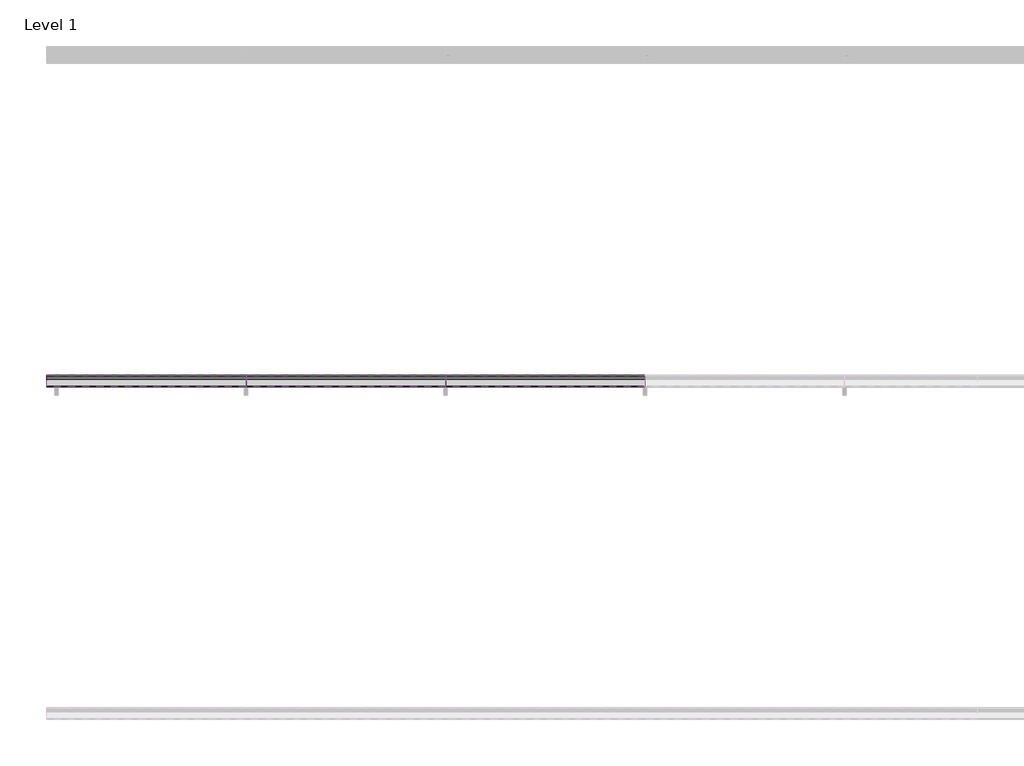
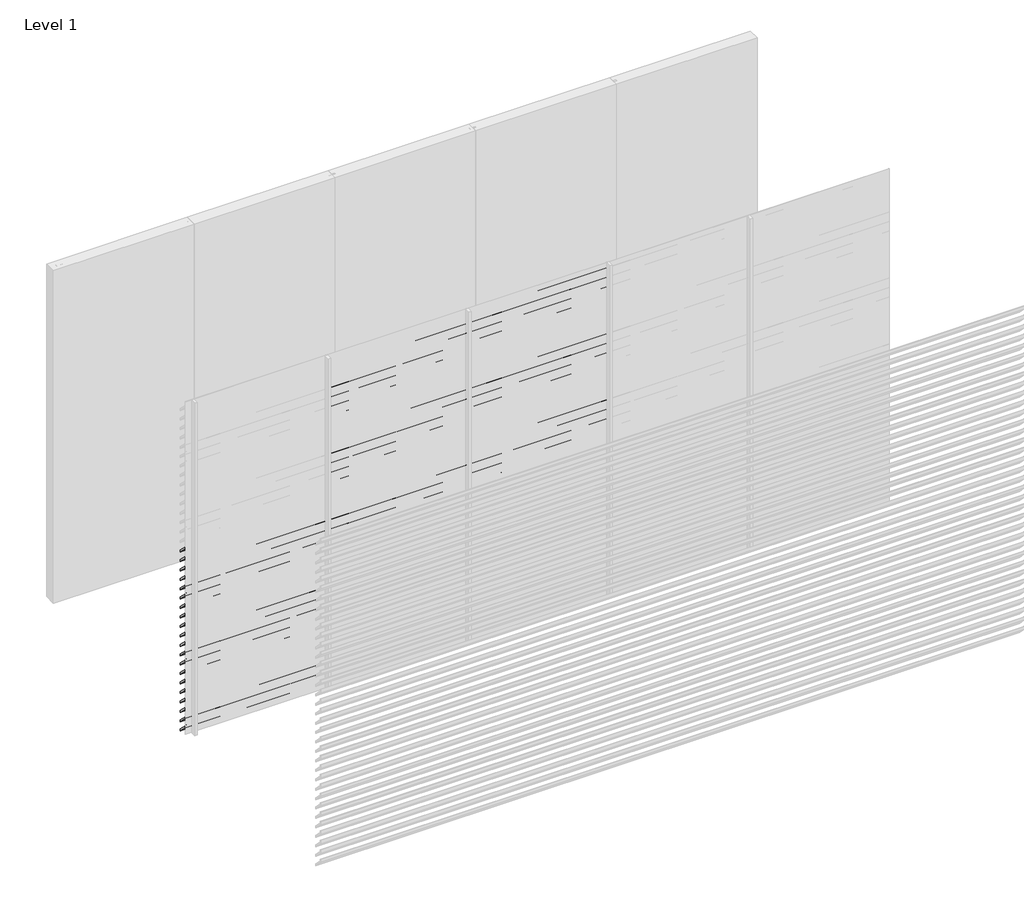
# One storey, part 7 of 10: 90 proxies.
"""IFC4 building model written with IfcOpenShell, lengths in millimetres."""

from ifc_helpers import new_model, si_unit, frame, origin, place, context, project, spatial, polyline, outline, extrude, element, save

model = new_model("IFC4")

# Units and contexts
model_context = context("Model", 3, world=origin())
ifc_project = project(units=[si_unit("LENGTHUNIT", "METRE", prefix="MILLI")], contexts=[model_context])

# Site, building, storey
site = spatial("IfcSite", under=ifc_project)
building = spatial("IfcBuilding", under=site)
storey = spatial("IfcBuildingStorey", under=building, Name="Level 1", Elevation=0.0)

# Proxies
placement = place(None, origin())
element("IfcBuildingElementProxy", 1, Name="Wall Sweeps", at=placement, inside=storey, context=model_context, shape_type="SweptSolid", body=[
    extrude(outline(polyline([(-5995.0, 1700.0), (-5995.0, 1687.0), (-5927.0, 1619.0), (-5927.0, 1601.0), (-5997.0, 1671.0), (-5997.0, 1700.0), (-5995.0, 1700.0)])), frame((0.0, 0.0, 0.0), z_axis=(1.0, 0.0, 0.0), x_axis=(0.0, 1.0, 0.0)), (0.0, 0.0, 1.0), 1200.0),
])
element("IfcBuildingElementProxy", 2, Name="Wall Sweeps", at=placement, inside=storey, context=model_context, shape_type="SweptSolid", body=[
    extrude(outline(polyline([(-5995.0, 1615.0), (-5995.0, 1602.0), (-5927.0, 1534.0), (-5927.0, 1516.0), (-5997.0, 1586.0), (-5997.0, 1615.0), (-5995.0, 1615.0)])), frame((0.0, 0.0, 0.0), z_axis=(1.0, 0.0, 0.0), x_axis=(0.0, 1.0, 0.0)), (0.0, 0.0, 1.0), 1200.0),
])
element("IfcBuildingElementProxy", 3, Name="Wall Sweeps", at=placement, inside=storey, context=model_context, shape_type="SweptSolid", body=[
    extrude(outline(polyline([(-5995.0, 1530.0), (-5995.0, 1517.0), (-5927.0, 1449.0), (-5927.0, 1431.0), (-5997.0, 1501.0), (-5997.0, 1530.0), (-5995.0, 1530.0)])), frame((0.0, 0.0, 0.0), z_axis=(1.0, 0.0, 0.0), x_axis=(0.0, 1.0, 0.0)), (0.0, 0.0, 1.0), 1200.0),
])
element("IfcBuildingElementProxy", 4, Name="Wall Sweeps", at=placement, inside=storey, context=model_context, shape_type="SweptSolid", body=[
    extrude(outline(polyline([(-5995.0, 1445.0), (-5995.0, 1432.0), (-5927.0, 1364.0), (-5927.0, 1346.0), (-5997.0, 1416.0), (-5997.0, 1445.0), (-5995.0, 1445.0)])), frame((0.0, 0.0, 0.0), z_axis=(1.0, 0.0, 0.0), x_axis=(0.0, 1.0, 0.0)), (0.0, 0.0, 1.0), 1200.0),
])
element("IfcBuildingElementProxy", 5, Name="Wall Sweeps", at=placement, inside=storey, context=model_context, shape_type="SweptSolid", body=[
    extrude(outline(polyline([(-5995.0, 1360.0), (-5995.0, 1347.0), (-5927.0, 1279.0), (-5927.0, 1261.0), (-5997.0, 1331.0), (-5997.0, 1360.0), (-5995.0, 1360.0)])), frame((0.0, 0.0, 0.0), z_axis=(1.0, 0.0, 0.0), x_axis=(0.0, 1.0, 0.0)), (0.0, 0.0, 1.0), 1200.0),
])
element("IfcBuildingElementProxy", 6, Name="Wall Sweeps", at=placement, inside=storey, context=model_context, shape_type="SweptSolid", body=[
    extrude(outline(polyline([(-5995.0, 1275.0), (-5995.0, 1262.0), (-5927.0, 1194.0), (-5927.0, 1176.0), (-5997.0, 1246.0), (-5997.0, 1275.0), (-5995.0, 1275.0)])), frame((0.0, 0.0, 0.0), z_axis=(1.0, 0.0, 0.0), x_axis=(0.0, 1.0, 0.0)), (0.0, 0.0, 1.0), 1200.0),
])
element("IfcBuildingElementProxy", 7, Name="Wall Sweeps", at=placement, inside=storey, context=model_context, shape_type="SweptSolid", body=[
    extrude(outline(polyline([(-5995.0, 1190.0), (-5995.0, 1177.0), (-5927.0, 1109.0), (-5927.0, 1091.0), (-5997.0, 1161.0), (-5997.0, 1190.0), (-5995.0, 1190.0)])), frame((0.0, 0.0, 0.0), z_axis=(1.0, 0.0, 0.0), x_axis=(0.0, 1.0, 0.0)), (0.0, 0.0, 1.0), 1200.0),
])
element("IfcBuildingElementProxy", 8, Name="Wall Sweeps", at=placement, inside=storey, context=model_context, shape_type="SweptSolid", body=[
    extrude(outline(polyline([(-5995.0, 1105.0), (-5995.0, 1092.0), (-5927.0, 1024.0), (-5927.0, 1006.0), (-5997.0, 1076.0), (-5997.0, 1105.0), (-5995.0, 1105.0)])), frame((0.0, 0.0, 0.0), z_axis=(1.0, 0.0, 0.0), x_axis=(0.0, 1.0, 0.0)), (0.0, 0.0, 1.0), 1200.0),
])
element("IfcBuildingElementProxy", 9, Name="Wall Sweeps", at=placement, inside=storey, context=model_context, shape_type="SweptSolid", body=[
    extrude(outline(polyline([(-5995.0, 1020.0), (-5995.0, 1007.0), (-5927.0, 939.0), (-5927.0, 921.0), (-5997.0, 991.0), (-5997.0, 1020.0), (-5995.0, 1020.0)])), frame((0.0, 0.0, 0.0), z_axis=(1.0, 0.0, 0.0), x_axis=(0.0, 1.0, 0.0)), (0.0, 0.0, 1.0), 1200.0),
])
element("IfcBuildingElementProxy", 10, Name="Wall Sweeps", at=placement, inside=storey, context=model_context, shape_type="SweptSolid", body=[
    extrude(outline(polyline([(-5995.0, 935.0), (-5995.0, 922.0), (-5927.0, 854.0), (-5927.0, 836.0), (-5997.0, 906.0), (-5997.0, 935.0), (-5995.0, 935.0)])), frame((0.0, 0.0, 0.0), z_axis=(1.0, 0.0, 0.0), x_axis=(0.0, 1.0, 0.0)), (0.0, 0.0, 1.0), 1200.0),
])
element("IfcBuildingElementProxy", 11, Name="Wall Sweeps", at=placement, inside=storey, context=model_context, shape_type="SweptSolid", body=[
    extrude(outline(polyline([(-5995.0, 850.0), (-5995.0, 837.0), (-5927.0, 769.0), (-5927.0, 751.0), (-5997.0, 821.0), (-5997.0, 850.0), (-5995.0, 850.0)])), frame((0.0, 0.0, 0.0), z_axis=(1.0, 0.0, 0.0), x_axis=(0.0, 1.0, 0.0)), (0.0, 0.0, 1.0), 1200.0),
])
element("IfcBuildingElementProxy", 12, Name="Wall Sweeps", at=placement, inside=storey, context=model_context, shape_type="SweptSolid", body=[
    extrude(outline(polyline([(-5995.0, 765.0), (-5995.0, 752.0), (-5927.0, 684.0), (-5927.0, 666.0), (-5997.0, 736.0), (-5997.0, 765.0), (-5995.0, 765.0)])), frame((0.0, 0.0, 0.0), z_axis=(1.0, 0.0, 0.0), x_axis=(0.0, 1.0, 0.0)), (0.0, 0.0, 1.0), 1200.0),
])
element("IfcBuildingElementProxy", 13, Name="Wall Sweeps", at=placement, inside=storey, context=model_context, shape_type="SweptSolid", body=[
    extrude(outline(polyline([(-5995.0, 680.0), (-5995.0, 667.0), (-5927.0, 599.0), (-5927.0, 581.0), (-5997.0, 651.0), (-5997.0, 680.0), (-5995.0, 680.0)])), frame((0.0, 0.0, 0.0), z_axis=(1.0, 0.0, 0.0), x_axis=(0.0, 1.0, 0.0)), (0.0, 0.0, 1.0), 1200.0),
])
element("IfcBuildingElementProxy", 14, Name="Wall Sweeps", at=placement, inside=storey, context=model_context, shape_type="SweptSolid", body=[
    extrude(outline(polyline([(-5995.0, 595.0), (-5995.0, 582.0), (-5927.0, 514.0), (-5927.0, 496.0), (-5997.0, 566.0), (-5997.0, 595.0), (-5995.0, 595.0)])), frame((0.0, 0.0, 0.0), z_axis=(1.0, 0.0, 0.0), x_axis=(0.0, 1.0, 0.0)), (0.0, 0.0, 1.0), 1200.0),
])
element("IfcBuildingElementProxy", 15, Name="Wall Sweeps", at=placement, inside=storey, context=model_context, shape_type="SweptSolid", body=[
    extrude(outline(polyline([(-5995.0, 510.0), (-5995.0, 497.0), (-5927.0, 429.0), (-5927.0, 411.0), (-5997.0, 481.0), (-5997.0, 510.0), (-5995.0, 510.0)])), frame((0.0, 0.0, 0.0), z_axis=(1.0, 0.0, 0.0), x_axis=(0.0, 1.0, 0.0)), (0.0, 0.0, 1.0), 1200.0),
])
element("IfcBuildingElementProxy", 16, Name="Wall Sweeps", at=placement, inside=storey, context=model_context, shape_type="SweptSolid", body=[
    extrude(outline(polyline([(-5995.0, 425.0), (-5995.0, 412.0), (-5927.0, 344.0), (-5927.0, 326.0), (-5997.0, 396.0), (-5997.0, 425.0), (-5995.0, 425.0)])), frame((0.0, 0.0, 0.0), z_axis=(1.0, 0.0, 0.0), x_axis=(0.0, 1.0, 0.0)), (0.0, 0.0, 1.0), 1200.0),
])
element("IfcBuildingElementProxy", 17, Name="Wall Sweeps", at=placement, inside=storey, context=model_context, shape_type="SweptSolid", body=[
    extrude(outline(polyline([(-5995.0, 340.0), (-5995.0, 327.0), (-5927.0, 259.0), (-5927.0, 241.0), (-5997.0, 311.0), (-5997.0, 340.0), (-5995.0, 340.0)])), frame((0.0, 0.0, 0.0), z_axis=(1.0, 0.0, 0.0), x_axis=(0.0, 1.0, 0.0)), (0.0, 0.0, 1.0), 1200.0),
])
element("IfcBuildingElementProxy", 18, Name="Wall Sweeps", at=placement, inside=storey, context=model_context, shape_type="SweptSolid", body=[
    extrude(outline(polyline([(-5995.0, 255.0), (-5995.0, 242.0), (-5927.0, 174.0), (-5927.0, 156.0), (-5997.0, 226.0), (-5997.0, 255.0), (-5995.0, 255.0)])), frame((0.0, 0.0, 0.0), z_axis=(1.0, 0.0, 0.0), x_axis=(0.0, 1.0, 0.0)), (0.0, 0.0, 1.0), 1200.0),
])
element("IfcBuildingElementProxy", 19, Name="Wall Sweeps", at=placement, inside=storey, context=model_context, shape_type="SweptSolid", body=[
    extrude(outline(polyline([(-5995.0, 170.0), (-5995.0, 157.0), (-5927.0, 89.0), (-5927.0, 71.0), (-5997.0, 141.0), (-5997.0, 170.0), (-5995.0, 170.0)])), frame((0.0, 0.0, 0.0), z_axis=(1.0, 0.0, 0.0), x_axis=(0.0, 1.0, 0.0)), (0.0, 0.0, 1.0), 1200.0),
])
element("IfcBuildingElementProxy", 20, Name="Wall Sweeps", at=placement, inside=storey, context=model_context, shape_type="SweptSolid", body=[
    extrude(outline(polyline([(-5995.0, 85.0), (-5995.0, 72.0), (-5927.0, 4.0), (-5927.0, -14.0), (-5997.0, 56.0), (-5997.0, 85.0), (-5995.0, 85.0)])), frame((0.0, 0.0, 0.0), z_axis=(1.0, 0.0, 0.0), x_axis=(0.0, 1.0, 0.0)), (0.0, 0.0, 1.0), 1200.0),
])
element("IfcBuildingElementProxy", 21, Name="Wall Sweeps", at=placement, inside=storey, context=model_context, shape_type="SweptSolid", body=[
    extrude(outline(polyline([(-5995.0, 2975.0), (-5995.0, 2962.0), (-5927.0, 2894.0), (-5927.0, 2876.0), (-5997.0, 2946.0), (-5997.0, 2975.0), (-5995.0, 2975.0)])), frame((1200.0, 0.0, 0.0), z_axis=(1.0, 0.0, 0.0), x_axis=(0.0, 1.0, 0.0)), (0.0, 0.0, 1.0), 1200.0),
])
element("IfcBuildingElementProxy", 22, Name="Wall Sweeps", at=placement, inside=storey, context=model_context, shape_type="SweptSolid", body=[
    extrude(outline(polyline([(-5995.0, 2890.0), (-5995.0, 2877.0), (-5927.0, 2809.0), (-5927.0, 2791.0), (-5997.0, 2861.0), (-5997.0, 2890.0), (-5995.0, 2890.0)])), frame((1200.0, 0.0, 0.0), z_axis=(1.0, 0.0, 0.0), x_axis=(0.0, 1.0, 0.0)), (0.0, 0.0, 1.0), 1200.0),
])
element("IfcBuildingElementProxy", 23, Name="Wall Sweeps", at=placement, inside=storey, context=model_context, shape_type="SweptSolid", body=[
    extrude(outline(polyline([(-5995.0, 2805.0), (-5995.0, 2792.0), (-5927.0, 2724.0), (-5927.0, 2706.0), (-5997.0, 2776.0), (-5997.0, 2805.0), (-5995.0, 2805.0)])), frame((1200.0, 0.0, 0.0), z_axis=(1.0, 0.0, 0.0), x_axis=(0.0, 1.0, 0.0)), (0.0, 0.0, 1.0), 1200.0),
])
element("IfcBuildingElementProxy", 24, Name="Wall Sweeps", at=placement, inside=storey, context=model_context, shape_type="SweptSolid", body=[
    extrude(outline(polyline([(-5995.0, 2720.0), (-5995.0, 2707.0), (-5927.0, 2639.0), (-5927.0, 2621.0), (-5997.0, 2691.0), (-5997.0, 2720.0), (-5995.0, 2720.0)])), frame((1200.0, 0.0, 0.0), z_axis=(1.0, 0.0, 0.0), x_axis=(0.0, 1.0, 0.0)), (0.0, 0.0, 1.0), 1200.0),
])
element("IfcBuildingElementProxy", 25, Name="Wall Sweeps", at=placement, inside=storey, context=model_context, shape_type="SweptSolid", body=[
    extrude(outline(polyline([(-5995.0, 2635.0), (-5995.0, 2622.0), (-5927.0, 2554.0), (-5927.0, 2536.0), (-5997.0, 2606.0), (-5997.0, 2635.0), (-5995.0, 2635.0)])), frame((1200.0, 0.0, 0.0), z_axis=(1.0, 0.0, 0.0), x_axis=(0.0, 1.0, 0.0)), (0.0, 0.0, 1.0), 1200.0),
])
element("IfcBuildingElementProxy", 26, Name="Wall Sweeps", at=placement, inside=storey, context=model_context, shape_type="SweptSolid", body=[
    extrude(outline(polyline([(-5995.0, 2550.0), (-5995.0, 2537.0), (-5927.0, 2469.0), (-5927.0, 2451.0), (-5997.0, 2521.0), (-5997.0, 2550.0), (-5995.0, 2550.0)])), frame((1200.0, 0.0, 0.0), z_axis=(1.0, 0.0, 0.0), x_axis=(0.0, 1.0, 0.0)), (0.0, 0.0, 1.0), 1200.0),
])
element("IfcBuildingElementProxy", 27, Name="Wall Sweeps", at=placement, inside=storey, context=model_context, shape_type="SweptSolid", body=[
    extrude(outline(polyline([(-5995.0, 2465.0), (-5995.0, 2452.0), (-5927.0, 2384.0), (-5927.0, 2366.0), (-5997.0, 2436.0), (-5997.0, 2465.0), (-5995.0, 2465.0)])), frame((1200.0, 0.0, 0.0), z_axis=(1.0, 0.0, 0.0), x_axis=(0.0, 1.0, 0.0)), (0.0, 0.0, 1.0), 1200.0),
])
element("IfcBuildingElementProxy", 28, Name="Wall Sweeps", at=placement, inside=storey, context=model_context, shape_type="SweptSolid", body=[
    extrude(outline(polyline([(-5995.0, 2380.0), (-5995.0, 2367.0), (-5927.0, 2299.0), (-5927.0, 2281.0), (-5997.0, 2351.0), (-5997.0, 2380.0), (-5995.0, 2380.0)])), frame((1200.0, 0.0, 0.0), z_axis=(1.0, 0.0, 0.0), x_axis=(0.0, 1.0, 0.0)), (0.0, 0.0, 1.0), 1200.0),
])
element("IfcBuildingElementProxy", 29, Name="Wall Sweeps", at=placement, inside=storey, context=model_context, shape_type="SweptSolid", body=[
    extrude(outline(polyline([(-5995.0, 2295.0), (-5995.0, 2282.0), (-5927.0, 2214.0), (-5927.0, 2196.0), (-5997.0, 2266.0), (-5997.0, 2295.0), (-5995.0, 2295.0)])), frame((1200.0, 0.0, 0.0), z_axis=(1.0, 0.0, 0.0), x_axis=(0.0, 1.0, 0.0)), (0.0, 0.0, 1.0), 1200.0),
])
element("IfcBuildingElementProxy", 30, Name="Wall Sweeps", at=placement, inside=storey, context=model_context, shape_type="SweptSolid", body=[
    extrude(outline(polyline([(-5995.0, 2210.0), (-5995.0, 2197.0), (-5927.0, 2129.0), (-5927.0, 2111.0), (-5997.0, 2181.0), (-5997.0, 2210.0), (-5995.0, 2210.0)])), frame((1200.0, 0.0, 0.0), z_axis=(1.0, 0.0, 0.0), x_axis=(0.0, 1.0, 0.0)), (0.0, 0.0, 1.0), 1200.0),
])
element("IfcBuildingElementProxy", 31, Name="Wall Sweeps", at=placement, inside=storey, context=model_context, shape_type="SweptSolid", body=[
    extrude(outline(polyline([(-5995.0, 2125.0), (-5995.0, 2112.0), (-5927.0, 2044.0), (-5927.0, 2026.0), (-5997.0, 2096.0), (-5997.0, 2125.0), (-5995.0, 2125.0)])), frame((1200.0, 0.0, 0.0), z_axis=(1.0, 0.0, 0.0), x_axis=(0.0, 1.0, 0.0)), (0.0, 0.0, 1.0), 1200.0),
])
element("IfcBuildingElementProxy", 32, Name="Wall Sweeps", at=placement, inside=storey, context=model_context, shape_type="SweptSolid", body=[
    extrude(outline(polyline([(-5995.0, 2040.0), (-5995.0, 2027.0), (-5927.0, 1959.0), (-5927.0, 1941.0), (-5997.0, 2011.0), (-5997.0, 2040.0), (-5995.0, 2040.0)])), frame((1200.0, 0.0, 0.0), z_axis=(1.0, 0.0, 0.0), x_axis=(0.0, 1.0, 0.0)), (0.0, 0.0, 1.0), 1200.0),
])
element("IfcBuildingElementProxy", 33, Name="Wall Sweeps", at=placement, inside=storey, context=model_context, shape_type="SweptSolid", body=[
    extrude(outline(polyline([(-5995.0, 1955.0), (-5995.0, 1942.0), (-5927.0, 1874.0), (-5927.0, 1856.0), (-5997.0, 1926.0), (-5997.0, 1955.0), (-5995.0, 1955.0)])), frame((1200.0, 0.0, 0.0), z_axis=(1.0, 0.0, 0.0), x_axis=(0.0, 1.0, 0.0)), (0.0, 0.0, 1.0), 1200.0),
])
element("IfcBuildingElementProxy", 34, Name="Wall Sweeps", at=placement, inside=storey, context=model_context, shape_type="SweptSolid", body=[
    extrude(outline(polyline([(-5995.0, 1870.0), (-5995.0, 1857.0), (-5927.0, 1789.0), (-5927.0, 1771.0), (-5997.0, 1841.0), (-5997.0, 1870.0), (-5995.0, 1870.0)])), frame((1200.0, 0.0, 0.0), z_axis=(1.0, 0.0, 0.0), x_axis=(0.0, 1.0, 0.0)), (0.0, 0.0, 1.0), 1200.0),
])
element("IfcBuildingElementProxy", 35, Name="Wall Sweeps", at=placement, inside=storey, context=model_context, shape_type="SweptSolid", body=[
    extrude(outline(polyline([(-5995.0, 1785.0), (-5995.0, 1772.0), (-5927.0, 1704.0), (-5927.0, 1686.0), (-5997.0, 1756.0), (-5997.0, 1785.0), (-5995.0, 1785.0)])), frame((1200.0, 0.0, 0.0), z_axis=(1.0, 0.0, 0.0), x_axis=(0.0, 1.0, 0.0)), (0.0, 0.0, 1.0), 1200.0),
])
element("IfcBuildingElementProxy", 36, Name="Wall Sweeps", at=placement, inside=storey, context=model_context, shape_type="SweptSolid", body=[
    extrude(outline(polyline([(-5995.0, 1700.0), (-5995.0, 1687.0), (-5927.0, 1619.0), (-5927.0, 1601.0), (-5997.0, 1671.0), (-5997.0, 1700.0), (-5995.0, 1700.0)])), frame((1200.0, 0.0, 0.0), z_axis=(1.0, 0.0, 0.0), x_axis=(0.0, 1.0, 0.0)), (0.0, 0.0, 1.0), 1200.0),
])
element("IfcBuildingElementProxy", 37, Name="Wall Sweeps", at=placement, inside=storey, context=model_context, shape_type="SweptSolid", body=[
    extrude(outline(polyline([(-5995.0, 1615.0), (-5995.0, 1602.0), (-5927.0, 1534.0), (-5927.0, 1516.0), (-5997.0, 1586.0), (-5997.0, 1615.0), (-5995.0, 1615.0)])), frame((1200.0, 0.0, 0.0), z_axis=(1.0, 0.0, 0.0), x_axis=(0.0, 1.0, 0.0)), (0.0, 0.0, 1.0), 1200.0),
])
element("IfcBuildingElementProxy", 38, Name="Wall Sweeps", at=placement, inside=storey, context=model_context, shape_type="SweptSolid", body=[
    extrude(outline(polyline([(-5995.0, 1530.0), (-5995.0, 1517.0), (-5927.0, 1449.0), (-5927.0, 1431.0), (-5997.0, 1501.0), (-5997.0, 1530.0), (-5995.0, 1530.0)])), frame((1200.0, 0.0, 0.0), z_axis=(1.0, 0.0, 0.0), x_axis=(0.0, 1.0, 0.0)), (0.0, 0.0, 1.0), 1200.0),
])
element("IfcBuildingElementProxy", 39, Name="Wall Sweeps", at=placement, inside=storey, context=model_context, shape_type="SweptSolid", body=[
    extrude(outline(polyline([(-5995.0, 1445.0), (-5995.0, 1432.0), (-5927.0, 1364.0), (-5927.0, 1346.0), (-5997.0, 1416.0), (-5997.0, 1445.0), (-5995.0, 1445.0)])), frame((1200.0, 0.0, 0.0), z_axis=(1.0, 0.0, 0.0), x_axis=(0.0, 1.0, 0.0)), (0.0, 0.0, 1.0), 1200.0),
])
element("IfcBuildingElementProxy", 40, Name="Wall Sweeps", at=placement, inside=storey, context=model_context, shape_type="SweptSolid", body=[
    extrude(outline(polyline([(-5995.0, 1360.0), (-5995.0, 1347.0), (-5927.0, 1279.0), (-5927.0, 1261.0), (-5997.0, 1331.0), (-5997.0, 1360.0), (-5995.0, 1360.0)])), frame((1200.0, 0.0, 0.0), z_axis=(1.0, 0.0, 0.0), x_axis=(0.0, 1.0, 0.0)), (0.0, 0.0, 1.0), 1200.0),
])
element("IfcBuildingElementProxy", 41, Name="Wall Sweeps", at=placement, inside=storey, context=model_context, shape_type="SweptSolid", body=[
    extrude(outline(polyline([(-5995.0, 1275.0), (-5995.0, 1262.0), (-5927.0, 1194.0), (-5927.0, 1176.0), (-5997.0, 1246.0), (-5997.0, 1275.0), (-5995.0, 1275.0)])), frame((1200.0, 0.0, 0.0), z_axis=(1.0, 0.0, 0.0), x_axis=(0.0, 1.0, 0.0)), (0.0, 0.0, 1.0), 1200.0),
])
element("IfcBuildingElementProxy", 42, Name="Wall Sweeps", at=placement, inside=storey, context=model_context, shape_type="SweptSolid", body=[
    extrude(outline(polyline([(-5995.0, 1190.0), (-5995.0, 1177.0), (-5927.0, 1109.0), (-5927.0, 1091.0), (-5997.0, 1161.0), (-5997.0, 1190.0), (-5995.0, 1190.0)])), frame((1200.0, 0.0, 0.0), z_axis=(1.0, 0.0, 0.0), x_axis=(0.0, 1.0, 0.0)), (0.0, 0.0, 1.0), 1200.0),
])
element("IfcBuildingElementProxy", 43, Name="Wall Sweeps", at=placement, inside=storey, context=model_context, shape_type="SweptSolid", body=[
    extrude(outline(polyline([(-5995.0, 1105.0), (-5995.0, 1092.0), (-5927.0, 1024.0), (-5927.0, 1006.0), (-5997.0, 1076.0), (-5997.0, 1105.0), (-5995.0, 1105.0)])), frame((1200.0, 0.0, 0.0), z_axis=(1.0, 0.0, 0.0), x_axis=(0.0, 1.0, 0.0)), (0.0, 0.0, 1.0), 1200.0),
])
element("IfcBuildingElementProxy", 44, Name="Wall Sweeps", at=placement, inside=storey, context=model_context, shape_type="SweptSolid", body=[
    extrude(outline(polyline([(-5995.0, 1020.0), (-5995.0, 1007.0), (-5927.0, 939.0), (-5927.0, 921.0), (-5997.0, 991.0), (-5997.0, 1020.0), (-5995.0, 1020.0)])), frame((1200.0, 0.0, 0.0), z_axis=(1.0, 0.0, 0.0), x_axis=(0.0, 1.0, 0.0)), (0.0, 0.0, 1.0), 1200.0),
])
element("IfcBuildingElementProxy", 45, Name="Wall Sweeps", at=placement, inside=storey, context=model_context, shape_type="SweptSolid", body=[
    extrude(outline(polyline([(-5995.0, 935.0), (-5995.0, 922.0), (-5927.0, 854.0), (-5927.0, 836.0), (-5997.0, 906.0), (-5997.0, 935.0), (-5995.0, 935.0)])), frame((1200.0, 0.0, 0.0), z_axis=(1.0, 0.0, 0.0), x_axis=(0.0, 1.0, 0.0)), (0.0, 0.0, 1.0), 1200.0),
])
element("IfcBuildingElementProxy", 46, Name="Wall Sweeps", at=placement, inside=storey, context=model_context, shape_type="SweptSolid", body=[
    extrude(outline(polyline([(-5995.0, 850.0), (-5995.0, 837.0), (-5927.0, 769.0), (-5927.0, 751.0), (-5997.0, 821.0), (-5997.0, 850.0), (-5995.0, 850.0)])), frame((1200.0, 0.0, 0.0), z_axis=(1.0, 0.0, 0.0), x_axis=(0.0, 1.0, 0.0)), (0.0, 0.0, 1.0), 1200.0),
])
element("IfcBuildingElementProxy", 47, Name="Wall Sweeps", at=placement, inside=storey, context=model_context, shape_type="SweptSolid", body=[
    extrude(outline(polyline([(-5995.0, 765.0), (-5995.0, 752.0), (-5927.0, 684.0), (-5927.0, 666.0), (-5997.0, 736.0), (-5997.0, 765.0), (-5995.0, 765.0)])), frame((1200.0, 0.0, 0.0), z_axis=(1.0, 0.0, 0.0), x_axis=(0.0, 1.0, 0.0)), (0.0, 0.0, 1.0), 1200.0),
])
element("IfcBuildingElementProxy", 48, Name="Wall Sweeps", at=placement, inside=storey, context=model_context, shape_type="SweptSolid", body=[
    extrude(outline(polyline([(-5995.0, 680.0), (-5995.0, 667.0), (-5927.0, 599.0), (-5927.0, 581.0), (-5997.0, 651.0), (-5997.0, 680.0), (-5995.0, 680.0)])), frame((1200.0, 0.0, 0.0), z_axis=(1.0, 0.0, 0.0), x_axis=(0.0, 1.0, 0.0)), (0.0, 0.0, 1.0), 1200.0),
])
element("IfcBuildingElementProxy", 49, Name="Wall Sweeps", at=placement, inside=storey, context=model_context, shape_type="SweptSolid", body=[
    extrude(outline(polyline([(-5995.0, 595.0), (-5995.0, 582.0), (-5927.0, 514.0), (-5927.0, 496.0), (-5997.0, 566.0), (-5997.0, 595.0), (-5995.0, 595.0)])), frame((1200.0, 0.0, 0.0), z_axis=(1.0, 0.0, 0.0), x_axis=(0.0, 1.0, 0.0)), (0.0, 0.0, 1.0), 1200.0),
])
element("IfcBuildingElementProxy", 50, Name="Wall Sweeps", at=placement, inside=storey, context=model_context, shape_type="SweptSolid", body=[
    extrude(outline(polyline([(-5995.0, 510.0), (-5995.0, 497.0), (-5927.0, 429.0), (-5927.0, 411.0), (-5997.0, 481.0), (-5997.0, 510.0), (-5995.0, 510.0)])), frame((1200.0, 0.0, 0.0), z_axis=(1.0, 0.0, 0.0), x_axis=(0.0, 1.0, 0.0)), (0.0, 0.0, 1.0), 1200.0),
])
element("IfcBuildingElementProxy", 51, Name="Wall Sweeps", at=placement, inside=storey, context=model_context, shape_type="SweptSolid", body=[
    extrude(outline(polyline([(-5995.0, 425.0), (-5995.0, 412.0), (-5927.0, 344.0), (-5927.0, 326.0), (-5997.0, 396.0), (-5997.0, 425.0), (-5995.0, 425.0)])), frame((1200.0, 0.0, 0.0), z_axis=(1.0, 0.0, 0.0), x_axis=(0.0, 1.0, 0.0)), (0.0, 0.0, 1.0), 1200.0),
])
element("IfcBuildingElementProxy", 52, Name="Wall Sweeps", at=placement, inside=storey, context=model_context, shape_type="SweptSolid", body=[
    extrude(outline(polyline([(-5995.0, 340.0), (-5995.0, 327.0), (-5927.0, 259.0), (-5927.0, 241.0), (-5997.0, 311.0), (-5997.0, 340.0), (-5995.0, 340.0)])), frame((1200.0, 0.0, 0.0), z_axis=(1.0, 0.0, 0.0), x_axis=(0.0, 1.0, 0.0)), (0.0, 0.0, 1.0), 1200.0),
])
element("IfcBuildingElementProxy", 53, Name="Wall Sweeps", at=placement, inside=storey, context=model_context, shape_type="SweptSolid", body=[
    extrude(outline(polyline([(-5995.0, 255.0), (-5995.0, 242.0), (-5927.0, 174.0), (-5927.0, 156.0), (-5997.0, 226.0), (-5997.0, 255.0), (-5995.0, 255.0)])), frame((1200.0, 0.0, 0.0), z_axis=(1.0, 0.0, 0.0), x_axis=(0.0, 1.0, 0.0)), (0.0, 0.0, 1.0), 1200.0),
])
element("IfcBuildingElementProxy", 54, Name="Wall Sweeps", at=placement, inside=storey, context=model_context, shape_type="SweptSolid", body=[
    extrude(outline(polyline([(-5995.0, 170.0), (-5995.0, 157.0), (-5927.0, 89.0), (-5927.0, 71.0), (-5997.0, 141.0), (-5997.0, 170.0), (-5995.0, 170.0)])), frame((1200.0, 0.0, 0.0), z_axis=(1.0, 0.0, 0.0), x_axis=(0.0, 1.0, 0.0)), (0.0, 0.0, 1.0), 1200.0),
])
element("IfcBuildingElementProxy", 55, Name="Wall Sweeps", at=placement, inside=storey, context=model_context, shape_type="SweptSolid", body=[
    extrude(outline(polyline([(-5995.0, 85.0), (-5995.0, 72.0), (-5927.0, 4.0), (-5927.0, -14.0), (-5997.0, 56.0), (-5997.0, 85.0), (-5995.0, 85.0)])), frame((1200.0, 0.0, 0.0), z_axis=(1.0, 0.0, 0.0), x_axis=(0.0, 1.0, 0.0)), (0.0, 0.0, 1.0), 1200.0),
])
element("IfcBuildingElementProxy", 56, Name="Wall Sweeps", at=placement, inside=storey, context=model_context, shape_type="SweptSolid", body=[
    extrude(outline(polyline([(-5995.0, 2975.0), (-5995.0, 2962.0), (-5927.0, 2894.0), (-5927.0, 2876.0), (-5997.0, 2946.0), (-5997.0, 2975.0), (-5995.0, 2975.0)])), frame((2400.0, 0.0, 0.0), z_axis=(1.0, 0.0, 0.0), x_axis=(0.0, 1.0, 0.0)), (0.0, 0.0, 1.0), 1200.0),
])
element("IfcBuildingElementProxy", 57, Name="Wall Sweeps", at=placement, inside=storey, context=model_context, shape_type="SweptSolid", body=[
    extrude(outline(polyline([(-5995.0, 2890.0), (-5995.0, 2877.0), (-5927.0, 2809.0), (-5927.0, 2791.0), (-5997.0, 2861.0), (-5997.0, 2890.0), (-5995.0, 2890.0)])), frame((2400.0, 0.0, 0.0), z_axis=(1.0, 0.0, 0.0), x_axis=(0.0, 1.0, 0.0)), (0.0, 0.0, 1.0), 1200.0),
])
element("IfcBuildingElementProxy", 58, Name="Wall Sweeps", at=placement, inside=storey, context=model_context, shape_type="SweptSolid", body=[
    extrude(outline(polyline([(-5995.0, 2805.0), (-5995.0, 2792.0), (-5927.0, 2724.0), (-5927.0, 2706.0), (-5997.0, 2776.0), (-5997.0, 2805.0), (-5995.0, 2805.0)])), frame((2400.0, 0.0, 0.0), z_axis=(1.0, 0.0, 0.0), x_axis=(0.0, 1.0, 0.0)), (0.0, 0.0, 1.0), 1200.0),
])
element("IfcBuildingElementProxy", 59, Name="Wall Sweeps", at=placement, inside=storey, context=model_context, shape_type="SweptSolid", body=[
    extrude(outline(polyline([(-5995.0, 2720.0), (-5995.0, 2707.0), (-5927.0, 2639.0), (-5927.0, 2621.0), (-5997.0, 2691.0), (-5997.0, 2720.0), (-5995.0, 2720.0)])), frame((2400.0, 0.0, 0.0), z_axis=(1.0, 0.0, 0.0), x_axis=(0.0, 1.0, 0.0)), (0.0, 0.0, 1.0), 1200.0),
])
element("IfcBuildingElementProxy", 60, Name="Wall Sweeps", at=placement, inside=storey, context=model_context, shape_type="SweptSolid", body=[
    extrude(outline(polyline([(-5995.0, 2635.0), (-5995.0, 2622.0), (-5927.0, 2554.0), (-5927.0, 2536.0), (-5997.0, 2606.0), (-5997.0, 2635.0), (-5995.0, 2635.0)])), frame((2400.0, 0.0, 0.0), z_axis=(1.0, 0.0, 0.0), x_axis=(0.0, 1.0, 0.0)), (0.0, 0.0, 1.0), 1200.0),
])
element("IfcBuildingElementProxy", 61, Name="Wall Sweeps", at=placement, inside=storey, context=model_context, shape_type="SweptSolid", body=[
    extrude(outline(polyline([(-5995.0, 2550.0), (-5995.0, 2537.0), (-5927.0, 2469.0), (-5927.0, 2451.0), (-5997.0, 2521.0), (-5997.0, 2550.0), (-5995.0, 2550.0)])), frame((2400.0, 0.0, 0.0), z_axis=(1.0, 0.0, 0.0), x_axis=(0.0, 1.0, 0.0)), (0.0, 0.0, 1.0), 1200.0),
])
element("IfcBuildingElementProxy", 62, Name="Wall Sweeps", at=placement, inside=storey, context=model_context, shape_type="SweptSolid", body=[
    extrude(outline(polyline([(-5995.0, 2465.0), (-5995.0, 2452.0), (-5927.0, 2384.0), (-5927.0, 2366.0), (-5997.0, 2436.0), (-5997.0, 2465.0), (-5995.0, 2465.0)])), frame((2400.0, 0.0, 0.0), z_axis=(1.0, 0.0, 0.0), x_axis=(0.0, 1.0, 0.0)), (0.0, 0.0, 1.0), 1200.0),
])
element("IfcBuildingElementProxy", 63, Name="Wall Sweeps", at=placement, inside=storey, context=model_context, shape_type="SweptSolid", body=[
    extrude(outline(polyline([(-5995.0, 2380.0), (-5995.0, 2367.0), (-5927.0, 2299.0), (-5927.0, 2281.0), (-5997.0, 2351.0), (-5997.0, 2380.0), (-5995.0, 2380.0)])), frame((2400.0, 0.0, 0.0), z_axis=(1.0, 0.0, 0.0), x_axis=(0.0, 1.0, 0.0)), (0.0, 0.0, 1.0), 1200.0),
])
element("IfcBuildingElementProxy", 64, Name="Wall Sweeps", at=placement, inside=storey, context=model_context, shape_type="SweptSolid", body=[
    extrude(outline(polyline([(-5995.0, 2295.0), (-5995.0, 2282.0), (-5927.0, 2214.0), (-5927.0, 2196.0), (-5997.0, 2266.0), (-5997.0, 2295.0), (-5995.0, 2295.0)])), frame((2400.0, 0.0, 0.0), z_axis=(1.0, 0.0, 0.0), x_axis=(0.0, 1.0, 0.0)), (0.0, 0.0, 1.0), 1200.0),
])
element("IfcBuildingElementProxy", 65, Name="Wall Sweeps", at=placement, inside=storey, context=model_context, shape_type="SweptSolid", body=[
    extrude(outline(polyline([(-5995.0, 2210.0), (-5995.0, 2197.0), (-5927.0, 2129.0), (-5927.0, 2111.0), (-5997.0, 2181.0), (-5997.0, 2210.0), (-5995.0, 2210.0)])), frame((2400.0, 0.0, 0.0), z_axis=(1.0, 0.0, 0.0), x_axis=(0.0, 1.0, 0.0)), (0.0, 0.0, 1.0), 1200.0),
])
element("IfcBuildingElementProxy", 66, Name="Wall Sweeps", at=placement, inside=storey, context=model_context, shape_type="SweptSolid", body=[
    extrude(outline(polyline([(-5995.0, 2125.0), (-5995.0, 2112.0), (-5927.0, 2044.0), (-5927.0, 2026.0), (-5997.0, 2096.0), (-5997.0, 2125.0), (-5995.0, 2125.0)])), frame((2400.0, 0.0, 0.0), z_axis=(1.0, 0.0, 0.0), x_axis=(0.0, 1.0, 0.0)), (0.0, 0.0, 1.0), 1200.0),
])
element("IfcBuildingElementProxy", 67, Name="Wall Sweeps", at=placement, inside=storey, context=model_context, shape_type="SweptSolid", body=[
    extrude(outline(polyline([(-5995.0, 2040.0), (-5995.0, 2027.0), (-5927.0, 1959.0), (-5927.0, 1941.0), (-5997.0, 2011.0), (-5997.0, 2040.0), (-5995.0, 2040.0)])), frame((2400.0, 0.0, 0.0), z_axis=(1.0, 0.0, 0.0), x_axis=(0.0, 1.0, 0.0)), (0.0, 0.0, 1.0), 1200.0),
])
element("IfcBuildingElementProxy", 68, Name="Wall Sweeps", at=placement, inside=storey, context=model_context, shape_type="SweptSolid", body=[
    extrude(outline(polyline([(-5995.0, 1955.0), (-5995.0, 1942.0), (-5927.0, 1874.0), (-5927.0, 1856.0), (-5997.0, 1926.0), (-5997.0, 1955.0), (-5995.0, 1955.0)])), frame((2400.0, 0.0, 0.0), z_axis=(1.0, 0.0, 0.0), x_axis=(0.0, 1.0, 0.0)), (0.0, 0.0, 1.0), 1200.0),
])
element("IfcBuildingElementProxy", 69, Name="Wall Sweeps", at=placement, inside=storey, context=model_context, shape_type="SweptSolid", body=[
    extrude(outline(polyline([(-5995.0, 1870.0), (-5995.0, 1857.0), (-5927.0, 1789.0), (-5927.0, 1771.0), (-5997.0, 1841.0), (-5997.0, 1870.0), (-5995.0, 1870.0)])), frame((2400.0, 0.0, 0.0), z_axis=(1.0, 0.0, 0.0), x_axis=(0.0, 1.0, 0.0)), (0.0, 0.0, 1.0), 1200.0),
])
element("IfcBuildingElementProxy", 70, Name="Wall Sweeps", at=placement, inside=storey, context=model_context, shape_type="SweptSolid", body=[
    extrude(outline(polyline([(-5995.0, 1785.0), (-5995.0, 1772.0), (-5927.0, 1704.0), (-5927.0, 1686.0), (-5997.0, 1756.0), (-5997.0, 1785.0), (-5995.0, 1785.0)])), frame((2400.0, 0.0, 0.0), z_axis=(1.0, 0.0, 0.0), x_axis=(0.0, 1.0, 0.0)), (0.0, 0.0, 1.0), 1200.0),
])
element("IfcBuildingElementProxy", 71, Name="Wall Sweeps", at=placement, inside=storey, context=model_context, shape_type="SweptSolid", body=[
    extrude(outline(polyline([(-5995.0, 1700.0), (-5995.0, 1687.0), (-5927.0, 1619.0), (-5927.0, 1601.0), (-5997.0, 1671.0), (-5997.0, 1700.0), (-5995.0, 1700.0)])), frame((2400.0, 0.0, 0.0), z_axis=(1.0, 0.0, 0.0), x_axis=(0.0, 1.0, 0.0)), (0.0, 0.0, 1.0), 1200.0),
])
element("IfcBuildingElementProxy", 72, Name="Wall Sweeps", at=placement, inside=storey, context=model_context, shape_type="SweptSolid", body=[
    extrude(outline(polyline([(-5995.0, 1615.0), (-5995.0, 1602.0), (-5927.0, 1534.0), (-5927.0, 1516.0), (-5997.0, 1586.0), (-5997.0, 1615.0), (-5995.0, 1615.0)])), frame((2400.0, 0.0, 0.0), z_axis=(1.0, 0.0, 0.0), x_axis=(0.0, 1.0, 0.0)), (0.0, 0.0, 1.0), 1200.0),
])
element("IfcBuildingElementProxy", 73, Name="Wall Sweeps", at=placement, inside=storey, context=model_context, shape_type="SweptSolid", body=[
    extrude(outline(polyline([(-5995.0, 1530.0), (-5995.0, 1517.0), (-5927.0, 1449.0), (-5927.0, 1431.0), (-5997.0, 1501.0), (-5997.0, 1530.0), (-5995.0, 1530.0)])), frame((2400.0, 0.0, 0.0), z_axis=(1.0, 0.0, 0.0), x_axis=(0.0, 1.0, 0.0)), (0.0, 0.0, 1.0), 1200.0),
])
element("IfcBuildingElementProxy", 74, Name="Wall Sweeps", at=placement, inside=storey, context=model_context, shape_type="SweptSolid", body=[
    extrude(outline(polyline([(-5995.0, 1445.0), (-5995.0, 1432.0), (-5927.0, 1364.0), (-5927.0, 1346.0), (-5997.0, 1416.0), (-5997.0, 1445.0), (-5995.0, 1445.0)])), frame((2400.0, 0.0, 0.0), z_axis=(1.0, 0.0, 0.0), x_axis=(0.0, 1.0, 0.0)), (0.0, 0.0, 1.0), 1200.0),
])
element("IfcBuildingElementProxy", 75, Name="Wall Sweeps", at=placement, inside=storey, context=model_context, shape_type="SweptSolid", body=[
    extrude(outline(polyline([(-5995.0, 1360.0), (-5995.0, 1347.0), (-5927.0, 1279.0), (-5927.0, 1261.0), (-5997.0, 1331.0), (-5997.0, 1360.0), (-5995.0, 1360.0)])), frame((2400.0, 0.0, 0.0), z_axis=(1.0, 0.0, 0.0), x_axis=(0.0, 1.0, 0.0)), (0.0, 0.0, 1.0), 1200.0),
])
element("IfcBuildingElementProxy", 76, Name="Wall Sweeps", at=placement, inside=storey, context=model_context, shape_type="SweptSolid", body=[
    extrude(outline(polyline([(-5995.0, 1275.0), (-5995.0, 1262.0), (-5927.0, 1194.0), (-5927.0, 1176.0), (-5997.0, 1246.0), (-5997.0, 1275.0), (-5995.0, 1275.0)])), frame((2400.0, 0.0, 0.0), z_axis=(1.0, 0.0, 0.0), x_axis=(0.0, 1.0, 0.0)), (0.0, 0.0, 1.0), 1200.0),
])
element("IfcBuildingElementProxy", 77, Name="Wall Sweeps", at=placement, inside=storey, context=model_context, shape_type="SweptSolid", body=[
    extrude(outline(polyline([(-5995.0, 1190.0), (-5995.0, 1177.0), (-5927.0, 1109.0), (-5927.0, 1091.0), (-5997.0, 1161.0), (-5997.0, 1190.0), (-5995.0, 1190.0)])), frame((2400.0, 0.0, 0.0), z_axis=(1.0, 0.0, 0.0), x_axis=(0.0, 1.0, 0.0)), (0.0, 0.0, 1.0), 1200.0),
])
element("IfcBuildingElementProxy", 78, Name="Wall Sweeps", at=placement, inside=storey, context=model_context, shape_type="SweptSolid", body=[
    extrude(outline(polyline([(-5995.0, 1105.0), (-5995.0, 1092.0), (-5927.0, 1024.0), (-5927.0, 1006.0), (-5997.0, 1076.0), (-5997.0, 1105.0), (-5995.0, 1105.0)])), frame((2400.0, 0.0, 0.0), z_axis=(1.0, 0.0, 0.0), x_axis=(0.0, 1.0, 0.0)), (0.0, 0.0, 1.0), 1200.0),
])
element("IfcBuildingElementProxy", 79, Name="Wall Sweeps", at=placement, inside=storey, context=model_context, shape_type="SweptSolid", body=[
    extrude(outline(polyline([(-5995.0, 1020.0), (-5995.0, 1007.0), (-5927.0, 939.0), (-5927.0, 921.0), (-5997.0, 991.0), (-5997.0, 1020.0), (-5995.0, 1020.0)])), frame((2400.0, 0.0, 0.0), z_axis=(1.0, 0.0, 0.0), x_axis=(0.0, 1.0, 0.0)), (0.0, 0.0, 1.0), 1200.0),
])
element("IfcBuildingElementProxy", 80, Name="Wall Sweeps", at=placement, inside=storey, context=model_context, shape_type="SweptSolid", body=[
    extrude(outline(polyline([(-5995.0, 935.0), (-5995.0, 922.0), (-5927.0, 854.0), (-5927.0, 836.0), (-5997.0, 906.0), (-5997.0, 935.0), (-5995.0, 935.0)])), frame((2400.0, 0.0, 0.0), z_axis=(1.0, 0.0, 0.0), x_axis=(0.0, 1.0, 0.0)), (0.0, 0.0, 1.0), 1200.0),
])
element("IfcBuildingElementProxy", 81, Name="Wall Sweeps", at=placement, inside=storey, context=model_context, shape_type="SweptSolid", body=[
    extrude(outline(polyline([(-5995.0, 850.0), (-5995.0, 837.0), (-5927.0, 769.0), (-5927.0, 751.0), (-5997.0, 821.0), (-5997.0, 850.0), (-5995.0, 850.0)])), frame((2400.0, 0.0, 0.0), z_axis=(1.0, 0.0, 0.0), x_axis=(0.0, 1.0, 0.0)), (0.0, 0.0, 1.0), 1200.0),
])
element("IfcBuildingElementProxy", 82, Name="Wall Sweeps", at=placement, inside=storey, context=model_context, shape_type="SweptSolid", body=[
    extrude(outline(polyline([(-5995.0, 765.0), (-5995.0, 752.0), (-5927.0, 684.0), (-5927.0, 666.0), (-5997.0, 736.0), (-5997.0, 765.0), (-5995.0, 765.0)])), frame((2400.0, 0.0, 0.0), z_axis=(1.0, 0.0, 0.0), x_axis=(0.0, 1.0, 0.0)), (0.0, 0.0, 1.0), 1200.0),
])
element("IfcBuildingElementProxy", 83, Name="Wall Sweeps", at=placement, inside=storey, context=model_context, shape_type="SweptSolid", body=[
    extrude(outline(polyline([(-5995.0, 680.0), (-5995.0, 667.0), (-5927.0, 599.0), (-5927.0, 581.0), (-5997.0, 651.0), (-5997.0, 680.0), (-5995.0, 680.0)])), frame((2400.0, 0.0, 0.0), z_axis=(1.0, 0.0, 0.0), x_axis=(0.0, 1.0, 0.0)), (0.0, 0.0, 1.0), 1200.0),
])
element("IfcBuildingElementProxy", 84, Name="Wall Sweeps", at=placement, inside=storey, context=model_context, shape_type="SweptSolid", body=[
    extrude(outline(polyline([(-5995.0, 595.0), (-5995.0, 582.0), (-5927.0, 514.0), (-5927.0, 496.0), (-5997.0, 566.0), (-5997.0, 595.0), (-5995.0, 595.0)])), frame((2400.0, 0.0, 0.0), z_axis=(1.0, 0.0, 0.0), x_axis=(0.0, 1.0, 0.0)), (0.0, 0.0, 1.0), 1200.0),
])
element("IfcBuildingElementProxy", 85, Name="Wall Sweeps", at=placement, inside=storey, context=model_context, shape_type="SweptSolid", body=[
    extrude(outline(polyline([(-5995.0, 510.0), (-5995.0, 497.0), (-5927.0, 429.0), (-5927.0, 411.0), (-5997.0, 481.0), (-5997.0, 510.0), (-5995.0, 510.0)])), frame((2400.0, 0.0, 0.0), z_axis=(1.0, 0.0, 0.0), x_axis=(0.0, 1.0, 0.0)), (0.0, 0.0, 1.0), 1200.0),
])
element("IfcBuildingElementProxy", 86, Name="Wall Sweeps", at=placement, inside=storey, context=model_context, shape_type="SweptSolid", body=[
    extrude(outline(polyline([(-5995.0, 425.0), (-5995.0, 412.0), (-5927.0, 344.0), (-5927.0, 326.0), (-5997.0, 396.0), (-5997.0, 425.0), (-5995.0, 425.0)])), frame((2400.0, 0.0, 0.0), z_axis=(1.0, 0.0, 0.0), x_axis=(0.0, 1.0, 0.0)), (0.0, 0.0, 1.0), 1200.0),
])
element("IfcBuildingElementProxy", 87, Name="Wall Sweeps", at=placement, inside=storey, context=model_context, shape_type="SweptSolid", body=[
    extrude(outline(polyline([(-5995.0, 340.0), (-5995.0, 327.0), (-5927.0, 259.0), (-5927.0, 241.0), (-5997.0, 311.0), (-5997.0, 340.0), (-5995.0, 340.0)])), frame((2400.0, 0.0, 0.0), z_axis=(1.0, 0.0, 0.0), x_axis=(0.0, 1.0, 0.0)), (0.0, 0.0, 1.0), 1200.0),
])
element("IfcBuildingElementProxy", 88, Name="Wall Sweeps", at=placement, inside=storey, context=model_context, shape_type="SweptSolid", body=[
    extrude(outline(polyline([(-5995.0, 255.0), (-5995.0, 242.0), (-5927.0, 174.0), (-5927.0, 156.0), (-5997.0, 226.0), (-5997.0, 255.0), (-5995.0, 255.0)])), frame((2400.0, 0.0, 0.0), z_axis=(1.0, 0.0, 0.0), x_axis=(0.0, 1.0, 0.0)), (0.0, 0.0, 1.0), 1200.0),
])
element("IfcBuildingElementProxy", 89, Name="Wall Sweeps", at=placement, inside=storey, context=model_context, shape_type="SweptSolid", body=[
    extrude(outline(polyline([(-5995.0, 170.0), (-5995.0, 157.0), (-5927.0, 89.0), (-5927.0, 71.0), (-5997.0, 141.0), (-5997.0, 170.0), (-5995.0, 170.0)])), frame((2400.0, 0.0, 0.0), z_axis=(1.0, 0.0, 0.0), x_axis=(0.0, 1.0, 0.0)), (0.0, 0.0, 1.0), 1200.0),
])
element("IfcBuildingElementProxy", 90, Name="Wall Sweeps", at=placement, inside=storey, context=model_context, shape_type="SweptSolid", body=[
    extrude(outline(polyline([(-5995.0, 85.0), (-5995.0, 72.0), (-5927.0, 4.0), (-5927.0, -14.0), (-5997.0, 56.0), (-5997.0, 85.0), (-5995.0, 85.0)])), frame((2400.0, 0.0, 0.0), z_axis=(1.0, 0.0, 0.0), x_axis=(0.0, 1.0, 0.0)), (0.0, 0.0, 1.0), 1200.0),
])

save(model, "model.ifc")
